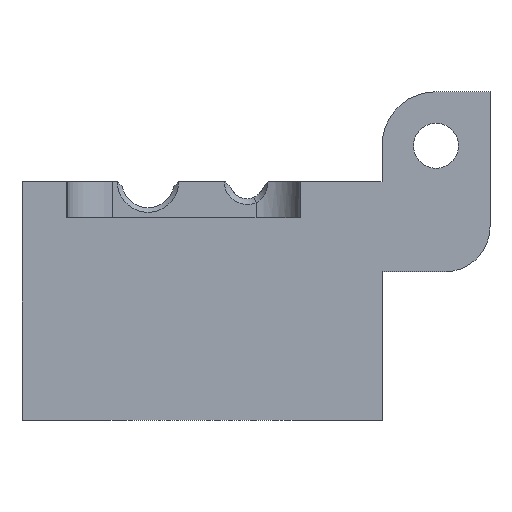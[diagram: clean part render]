
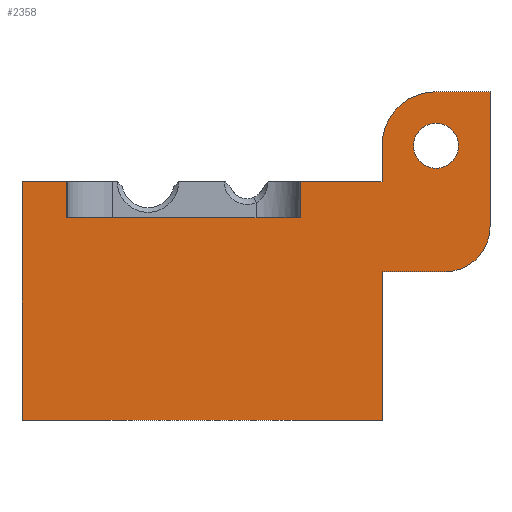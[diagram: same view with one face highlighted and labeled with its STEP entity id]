
A CAD part, left-side view. The second image highlights one B-rep face of the part: STEP entity #2358.
In plain terms, the highlighted planar face has unit normal (-1, 0, 0).
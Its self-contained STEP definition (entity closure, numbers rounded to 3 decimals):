
#7 = VERTEX_POINT ( 'NONE', #71 ) ;
#27 = LINE ( 'NONE', #477, #2118 ) ;
#34 = EDGE_CURVE ( 'NONE', #2060, #1738, #27, .T. ) ;
#47 = DIRECTION ( 'NONE',  ( 1., 0., 0. ) ) ;
#71 = CARTESIAN_POINT ( 'NONE',  ( -20., 15., 0. ) ) ;
#83 = DIRECTION ( 'NONE',  ( 0., 0., 1. ) ) ;
#87 = CARTESIAN_POINT ( 'NONE',  ( -20., -26., 10. ) ) ;
#89 = DIRECTION ( 'NONE',  ( 1., 0., 0. ) ) ;
#100 = DIRECTION ( 'NONE',  ( 0., -1., 0. ) ) ;
#123 = CIRCLE ( 'NONE', #807, 2.5 ) ;
#126 = DIRECTION ( 'NONE',  ( 0., -1., 0. ) ) ;
#158 = EDGE_CURVE ( 'NONE', #2140, #1324, #505, .T. ) ;
#161 = VERTEX_POINT ( 'NONE', #674 ) ;
#176 = LINE ( 'NONE', #897, #2266 ) ;
#184 = ORIENTED_EDGE ( 'NONE', *, *, #2196, .T. ) ;
#189 = ORIENTED_EDGE ( 'NONE', *, *, #1069, .T. ) ;
#203 = VECTOR ( 'NONE', #1091, 1000. ) ;
#213 = EDGE_CURVE ( 'NONE', #1551, #1186, #1461, .T. ) ;
#214 = CARTESIAN_POINT ( 'NONE',  ( -20., -11., -4. ) ) ;
#238 = EDGE_CURVE ( 'NONE', #411, #436, #1204, .T. ) ;
#258 = CARTESIAN_POINT ( 'NONE',  ( -20., -32., -10. ) ) ;
#335 = FACE_BOUND ( 'NONE', #858, .T. ) ;
#352 = VERTEX_POINT ( 'NONE', #1542 ) ;
#360 = DIRECTION ( 'NONE',  ( 0., -1., 0. ) ) ;
#381 = ORIENTED_EDGE ( 'NONE', *, *, #213, .T. ) ;
#411 = VERTEX_POINT ( 'NONE', #2353 ) ;
#414 = VERTEX_POINT ( 'NONE', #1149 ) ;
#423 = CARTESIAN_POINT ( 'NONE',  ( -20., -26., 6.5 ) ) ;
#430 = LINE ( 'NONE', #1589, #1927 ) ;
#436 = VERTEX_POINT ( 'NONE', #1763 ) ;
#446 = EDGE_CURVE ( 'NONE', #352, #2387, #2516, .T. ) ;
#456 = CARTESIAN_POINT ( 'NONE',  ( -20., -27., -5. ) ) ;
#470 = CARTESIAN_POINT ( 'NONE',  ( -20., -20., 10. ) ) ;
#475 = DIRECTION ( 'NONE',  ( -1., 0., 0. ) ) ;
#477 = CARTESIAN_POINT ( 'NONE',  ( -20., -11., -4. ) ) ;
#505 = CIRCLE ( 'NONE', #2004, 2.5 ) ;
#512 = ORIENTED_EDGE ( 'NONE', *, *, #2396, .F. ) ;
#515 = CARTESIAN_POINT ( 'NONE',  ( -20., -11., 0. ) ) ;
#562 = CARTESIAN_POINT ( 'NONE',  ( -20., -20., 4. ) ) ;
#659 = DIRECTION ( 'NONE',  ( 0., -1., 0. ) ) ;
#673 = ORIENTED_EDGE ( 'NONE', *, *, #2506, .T. ) ;
#674 = CARTESIAN_POINT ( 'NONE',  ( -20., -20., -26.5 ) ) ;
#690 = LINE ( 'NONE', #1560, #1836 ) ;
#748 = EDGE_CURVE ( 'NONE', #161, #1777, #176, .T. ) ;
#756 = LINE ( 'NONE', #470, #203 ) ;
#767 = VECTOR ( 'NONE', #100, 1000. ) ;
#807 = AXIS2_PLACEMENT_3D ( 'NONE', #1314, #89, #1511 ) ;
#858 = EDGE_LOOP ( 'NONE', ( #184, #1574 ) ) ;
#897 = CARTESIAN_POINT ( 'NONE',  ( -20., -20., -26.5 ) ) ;
#959 = CARTESIAN_POINT ( 'NONE',  ( -20., -32., 10. ) ) ;
#1048 = AXIS2_PLACEMENT_3D ( 'NONE', #1350, #1137, #1758 ) ;
#1051 = DIRECTION ( 'NONE',  ( 0., 0., 1. ) ) ;
#1052 = LINE ( 'NONE', #1687, #1358 ) ;
#1069 = EDGE_CURVE ( 'NONE', #436, #1551, #1897, .T. ) ;
#1091 = DIRECTION ( 'NONE',  ( 0., 0., -1. ) ) ;
#1114 = CARTESIAN_POINT ( 'NONE',  ( -20., 20., 0. ) ) ;
#1126 = CARTESIAN_POINT ( 'NONE',  ( -20., -27., -10. ) ) ;
#1137 = DIRECTION ( 'NONE',  ( -1., 0., 0. ) ) ;
#1147 = ORIENTED_EDGE ( 'NONE', *, *, #1447, .T. ) ;
#1149 = CARTESIAN_POINT ( 'NONE',  ( -20., -20., 0. ) ) ;
#1152 = EDGE_CURVE ( 'NONE', #1738, #414, #690, .T. ) ;
#1163 = DIRECTION ( 'NONE',  ( 0., 1., 0. ) ) ;
#1177 = LINE ( 'NONE', #2347, #1647 ) ;
#1186 = VERTEX_POINT ( 'NONE', #562 ) ;
#1201 = CARTESIAN_POINT ( 'NONE',  ( -20., 20., -26.5 ) ) ;
#1204 = LINE ( 'NONE', #258, #2271 ) ;
#1267 = VERTEX_POINT ( 'NONE', #1584 ) ;
#1272 = DIRECTION ( 'NONE',  ( 0., 0., -1. ) ) ;
#1303 = LINE ( 'NONE', #2518, #767 ) ;
#1314 = CARTESIAN_POINT ( 'NONE',  ( -20., -26., 4. ) ) ;
#1324 = VERTEX_POINT ( 'NONE', #1992 ) ;
#1350 = CARTESIAN_POINT ( 'NONE',  ( -20., 20., -26.5 ) ) ;
#1358 = VECTOR ( 'NONE', #1494, 1000. ) ;
#1385 = EDGE_CURVE ( 'NONE', #2438, #411, #2421, .T. ) ;
#1447 = EDGE_CURVE ( 'NONE', #1186, #414, #756, .T. ) ;
#1452 = VECTOR ( 'NONE', #2163, 1000. ) ;
#1457 = EDGE_CURVE ( 'NONE', #1267, #7, #1052, .T. ) ;
#1461 = CIRCLE ( 'NONE', #2276, 6. ) ;
#1472 = CARTESIAN_POINT ( 'NONE',  ( -20., -26., 4. ) ) ;
#1480 = DIRECTION ( 'NONE',  ( 0., 0., 1. ) ) ;
#1494 = DIRECTION ( 'NONE',  ( 0., 0., 1. ) ) ;
#1495 = AXIS2_PLACEMENT_3D ( 'NONE', #456, #1877, #659 ) ;
#1511 = DIRECTION ( 'NONE',  ( 0., 0., -1. ) ) ;
#1530 = ORIENTED_EDGE ( 'NONE', *, *, #34, .F. ) ;
#1542 = CARTESIAN_POINT ( 'NONE',  ( -20., 20., -26.5 ) ) ;
#1551 = VERTEX_POINT ( 'NONE', #87 ) ;
#1553 = PLANE ( 'NONE',  #1048 ) ;
#1560 = CARTESIAN_POINT ( 'NONE',  ( -20., 20., 0. ) ) ;
#1574 = ORIENTED_EDGE ( 'NONE', *, *, #158, .T. ) ;
#1584 = CARTESIAN_POINT ( 'NONE',  ( -20., 15., -4. ) ) ;
#1589 = CARTESIAN_POINT ( 'NONE',  ( -20., 15., -4. ) ) ;
#1621 = ORIENTED_EDGE ( 'NONE', *, *, #1753, .T. ) ;
#1638 = EDGE_LOOP ( 'NONE', ( #189, #381, #1147, #2260, #1530, #2504, #2526, #512, #1870, #1621, #1907, #673, #2352, #2036 ) ) ;
#1647 = VECTOR ( 'NONE', #126, 1000. ) ;
#1668 = LINE ( 'NONE', #1201, #2135 ) ;
#1687 = CARTESIAN_POINT ( 'NONE',  ( -20., 15., -4. ) ) ;
#1689 = DIRECTION ( 'NONE',  ( 0., -1., 0. ) ) ;
#1738 = VERTEX_POINT ( 'NONE', #515 ) ;
#1753 = EDGE_CURVE ( 'NONE', #352, #161, #1668, .T. ) ;
#1758 = DIRECTION ( 'NONE',  ( 0., -1., 0. ) ) ;
#1761 = DIRECTION ( 'NONE',  ( 0., -1., 0. ) ) ;
#1763 = CARTESIAN_POINT ( 'NONE',  ( -20., -32., 10. ) ) ;
#1777 = VERTEX_POINT ( 'NONE', #2420 ) ;
#1815 = DIRECTION ( 'NONE',  ( 0., -1., 0. ) ) ;
#1836 = VECTOR ( 'NONE', #1761, 1000. ) ;
#1870 = ORIENTED_EDGE ( 'NONE', *, *, #446, .F. ) ;
#1877 = DIRECTION ( 'NONE',  ( -1., 0., 0. ) ) ;
#1891 = CARTESIAN_POINT ( 'NONE',  ( -20., -26., 4. ) ) ;
#1894 = FACE_OUTER_BOUND ( 'NONE', #1638, .T. ) ;
#1897 = LINE ( 'NONE', #959, #1959 ) ;
#1907 = ORIENTED_EDGE ( 'NONE', *, *, #748, .T. ) ;
#1927 = VECTOR ( 'NONE', #360, 1000. ) ;
#1956 = CARTESIAN_POINT ( 'NONE',  ( -20., 20., -26.5 ) ) ;
#1959 = VECTOR ( 'NONE', #1163, 1000. ) ;
#1992 = CARTESIAN_POINT ( 'NONE',  ( -20., -26., 1.5 ) ) ;
#2004 = AXIS2_PLACEMENT_3D ( 'NONE', #1472, #47, #1272 ) ;
#2036 = ORIENTED_EDGE ( 'NONE', *, *, #238, .T. ) ;
#2060 = VERTEX_POINT ( 'NONE', #214 ) ;
#2118 = VECTOR ( 'NONE', #1051, 1000. ) ;
#2135 = VECTOR ( 'NONE', #1815, 1000. ) ;
#2140 = VERTEX_POINT ( 'NONE', #423 ) ;
#2163 = DIRECTION ( 'NONE',  ( 0., 0., 1. ) ) ;
#2196 = EDGE_CURVE ( 'NONE', #1324, #2140, #123, .T. ) ;
#2260 = ORIENTED_EDGE ( 'NONE', *, *, #1152, .F. ) ;
#2266 = VECTOR ( 'NONE', #83, 1000. ) ;
#2271 = VECTOR ( 'NONE', #1480, 1000. ) ;
#2276 = AXIS2_PLACEMENT_3D ( 'NONE', #1891, #475, #1689 ) ;
#2347 = CARTESIAN_POINT ( 'NONE',  ( -20., -20., -10. ) ) ;
#2352 = ORIENTED_EDGE ( 'NONE', *, *, #1385, .T. ) ;
#2353 = CARTESIAN_POINT ( 'NONE',  ( -20., -32., -5. ) ) ;
#2358 = ADVANCED_FACE ( 'NONE', ( #335, #1894 ), #1553, .T. ) ;
#2387 = VERTEX_POINT ( 'NONE', #1114 ) ;
#2396 = EDGE_CURVE ( 'NONE', #2387, #7, #1303, .T. ) ;
#2420 = CARTESIAN_POINT ( 'NONE',  ( -20., -20., -10. ) ) ;
#2421 = CIRCLE ( 'NONE', #1495, 5. ) ;
#2438 = VERTEX_POINT ( 'NONE', #1126 ) ;
#2504 = ORIENTED_EDGE ( 'NONE', *, *, #2586, .F. ) ;
#2506 = EDGE_CURVE ( 'NONE', #1777, #2438, #1177, .T. ) ;
#2516 = LINE ( 'NONE', #1956, #1452 ) ;
#2518 = CARTESIAN_POINT ( 'NONE',  ( -20., 20., 0. ) ) ;
#2526 = ORIENTED_EDGE ( 'NONE', *, *, #1457, .T. ) ;
#2586 = EDGE_CURVE ( 'NONE', #1267, #2060, #430, .T. ) ;
